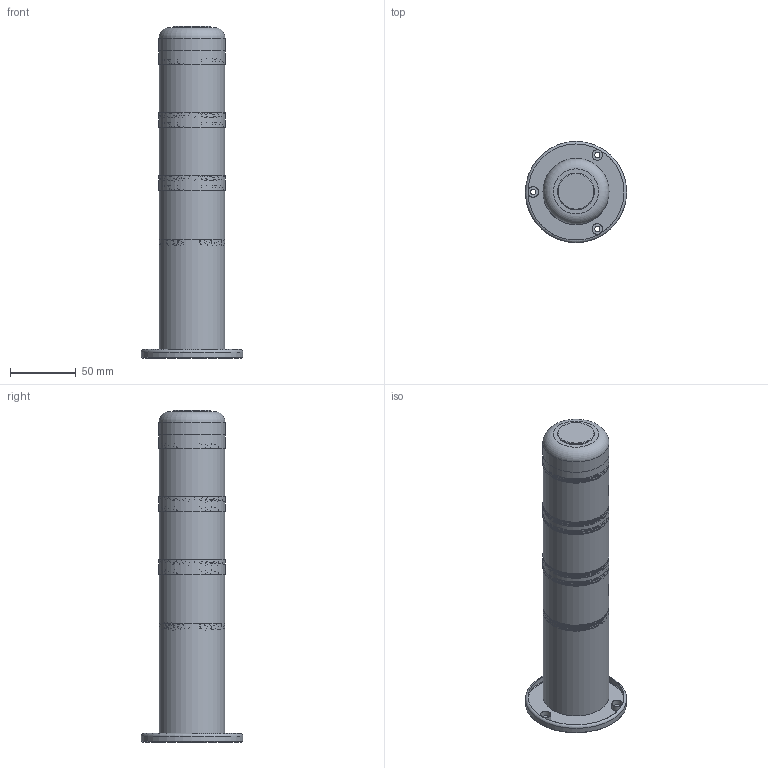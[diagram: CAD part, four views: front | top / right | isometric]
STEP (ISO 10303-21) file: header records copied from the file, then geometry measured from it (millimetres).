
FILE_DESCRIPTION(/* description */ (''),/* implementation_level */ '2;1');
FILE_NAME(/* name */ 'OLE1-301 常亮.stp',/* time_stamp */ '2022-12-13T18:14:00+08:00',/* author */ (''),/* organization */ (''),/* preprocessor_version */ 'ST-DEVELOPER v16.7',/* originating_system */ 'SIEMENS PLM Software NX 12.0',/* authorisation */ '');
FILE_SCHEMA (('AUTOMOTIVE_DESIGN { 1 0 10303 214 3 1 1 1 }'));
Products named in the file (1): Admi15EC76A1t4o6
Bounding box: 77 x 77 x 252.5 mm (x, y, z)
Volume: 139451.7 mm3; surface area: 126205.2 mm2
Topology: 10 solids, 11 shells, 1538 faces, 3697 edges, 2465 vertices
Faces by surface type: plane 1402, cylinder 75, bspline 48, cone 10, torus 3
Full cylindrical faces by diameter (mm): 4 x3, 8 x3, 18 x1, 21.5 x1, 28 x1, 32 x3, 38 x1, 42 x1, 44.2 x3, 45 x1, 45.5 x8, 46.3 x5, 47 x1, 50 x4, 50.3 x4, 77 x1
Entity records: 63346 total; most frequent: CARTESIAN_POINT 29409, ORIENTED_EDGE 7166, DIRECTION 5931, EDGE_CURVE 3583, LINE 2739, VECTOR 2739, VERTEX_POINT 2410, EDGE_LOOP 1879
